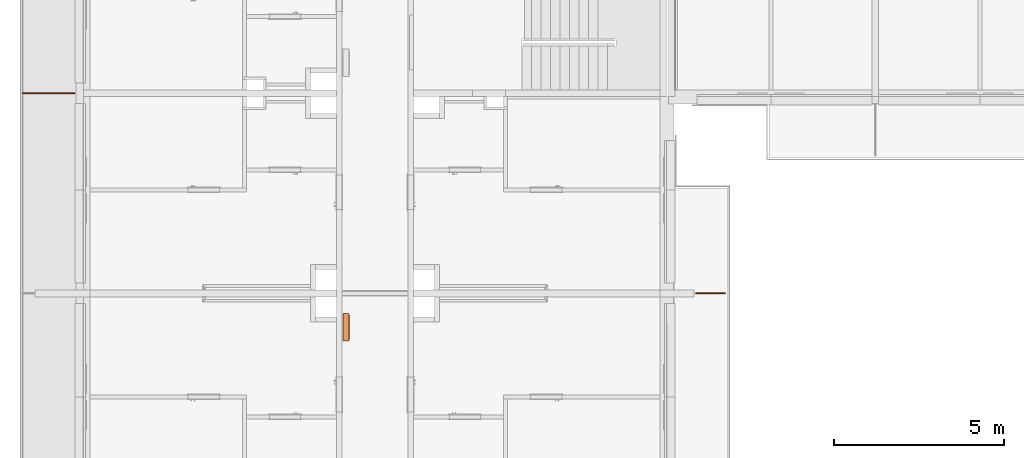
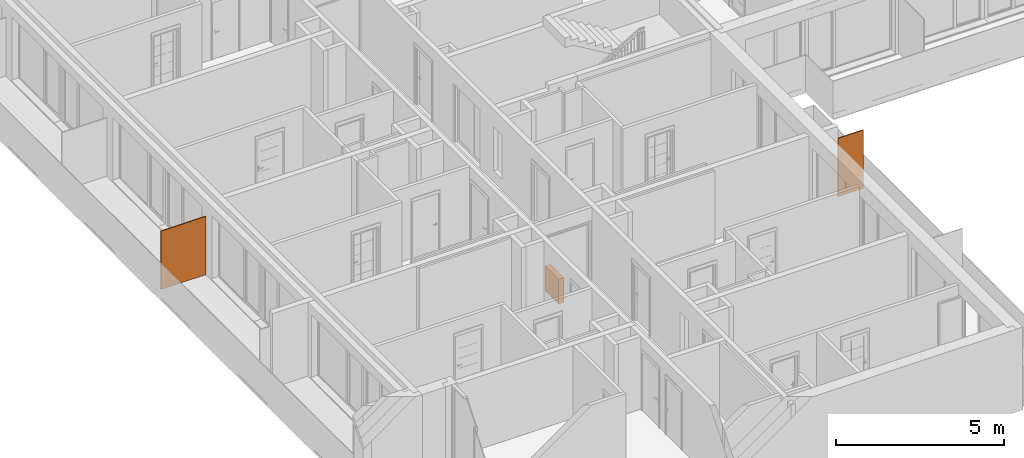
# One storey, part 12 of 66: 3 proxies.
"""IFC2X3 building model written with IfcOpenShell, lengths in millimetres."""

import ifcopenshell
import ifcopenshell.guid

model = None  # the IFC model being written
_history = None  # IfcOwnerHistory: only IFC2X3 demands one
_inside = {}  # id of a spatial element -> (the spatial element, [elements in it])
_under = {}  # id of a project, library or spatial element -> (it, [spatial elements below it])
_declared = {}  # id of a project -> (the project, [libraries it declares])
_typed = {}  # id of a type object -> (the type object, [elements of that type])
_made_of = {}  # id of a material, layer set ... -> (it, [elements and type objects made of it])


def new_model(schema):
    """Start an empty IFC model of exactly this schema.

    Asked for "IFC4X3", IfcOpenShell would pick the latest addendum, in which some entities
    have other attributes; the version numbers below select the first issue.
    IFC2X3 requires an IfcOwnerHistory on every rooted entity: one is made here for all.
    """
    global model, _history
    if schema == "IFC4X3":
        model = ifcopenshell.file(schema_version=(4, 3, 0, 0))
    else:
        model = ifcopenshell.file(schema=schema)
    _inside.clear()
    _under.clear()
    _declared.clear()
    _typed.clear()
    _made_of.clear()
    _history = None
    if model.schema == "IFC2X3":
        org = make("IfcOrganization", Name="unknown")
        user = make(
            "IfcPersonAndOrganization",
            ThePerson=make("IfcPerson", FamilyName="unknown"),
            TheOrganization=org,
        )
        app = make(
            "IfcApplication",
            ApplicationDeveloper=org,
            Version="unknown",
            ApplicationFullName="unknown",
            ApplicationIdentifier="unknown",
        )
        _history = make(
            "IfcOwnerHistory",
            OwningUser=user,
            OwningApplication=app,
            ChangeAction="ADDED",
            CreationDate=0,
        )
    return model


def make(cls, **values):
    """One entity of the class cls with the attributes given. An attribute that is None is left unset."""
    return model.create_entity(
        cls, **{name: value for name, value in values.items() if value is not None}
    )


def entity(cls, *values):
    """Any entity or typed value of the class cls, its attributes in the order of the schema. None: left unset."""
    e = model.create_entity(cls)
    for i, value in enumerate(values):
        if value is not None:
            e[i] = value
    return e


def rooted(cls, **values):
    """An entity with a GlobalId (a new one), such as an element, a storey or a relation."""
    return make(cls, GlobalId=ifcopenshell.guid.new(), OwnerHistory=_history, **values)


def si_unit(unit_type, name, prefix=None):
    """IfcSIUnit, for example si_unit("LENGTHUNIT", "METRE", prefix="MILLI")."""
    return make("IfcSIUnit", UnitType=unit_type, Prefix=prefix, Name=name)


def converted_unit(unit_type, name, factor, base, dimensions=None, offset=None):
    """IfcConversionBasedUnit, such as the inch: factor (a typed value) times the base unit."""
    return make(
        "IfcConversionBasedUnit"
        if offset is None
        else "IfcConversionBasedUnitWithOffset",
        ConversionOffset=offset,
        Dimensions=None
        if dimensions is None
        else entity("IfcDimensionalExponents", *dimensions),
        UnitType=unit_type,
        Name=name,
        ConversionFactor=make(
            "IfcMeasureWithUnit", ValueComponent=factor, UnitComponent=base
        ),
    )


def derived_unit(unit_type, elements):
    """IfcDerivedUnit: a product of units, each with its exponent."""
    return make(
        "IfcDerivedUnit",
        Elements=[
            make("IfcDerivedUnitElement", Unit=unit, Exponent=power)
            for unit, power in elements
        ],
        UnitType=unit_type,
    )


def money_unit(currency):
    """IfcMonetaryUnit."""
    return make("IfcMonetaryUnit", Currency=currency)


def assignment(units):
    """IfcUnitAssignment: the units of a project."""
    return None if units is None else make("IfcUnitAssignment", Units=units)


def point(xyz):
    """IfcCartesianPoint."""
    return None if xyz is None else make("IfcCartesianPoint", Coordinates=xyz)


def direction(xyz):
    """IfcDirection."""
    return None if xyz is None else make("IfcDirection", DirectionRatios=xyz)


def frame(location, z_axis=None, x_axis=None):
    """IfcAxis2Placement3D, a coordinate frame: its origin and axes. An axis left out is left unset."""
    return make(
        "IfcAxis2Placement3D",
        Location=point(location),
        Axis=direction(z_axis),
        RefDirection=direction(x_axis),
    )


def origin_with_axes():
    """The frame at (0, 0, 0) with the z axis (0, 0, 1) and the x axis (1, 0, 0) written out."""
    return frame((0.0, 0.0, 0.0), z_axis=(0.0, 0.0, 1.0), x_axis=(1.0, 0.0, 0.0))


def place(relative_to, where):
    """IfcLocalPlacement: puts the frame where relative to a parent placement (None: the world)."""
    return make(
        "IfcLocalPlacement", PlacementRelTo=relative_to, RelativePlacement=where
    )


def context(
    kind, dimensions, precision=None, world=None, true_north=None, identifier=None
):
    """IfcGeometricRepresentationContext, for example the 3D "Model" context."""
    return make(
        "IfcGeometricRepresentationContext",
        ContextIdentifier=identifier,
        ContextType=kind,
        CoordinateSpaceDimension=dimensions,
        Precision=precision,
        WorldCoordinateSystem=world,
        TrueNorth=true_north,
    )


def subcontext(parent, identifier, kind, view, scale=None):
    """IfcGeometricRepresentationSubContext, for example "Body" below "Model"."""
    return make(
        "IfcGeometricRepresentationSubContext",
        ContextIdentifier=identifier,
        ContextType=kind,
        ParentContext=parent,
        TargetScale=scale,
        TargetView=view,
    )


def project(units=None, contexts=None):
    """IfcProject with its units and contexts."""
    return rooted(
        "IfcProject",
        Name="project",
        RepresentationContexts=contexts,
        UnitsInContext=assignment(units),
    )


def spatial(cls, under=None, at=None, **own):
    """A site, building, storey or space (cls), placed at a placement, below another one or the project."""
    s = rooted(cls, ObjectPlacement=at, **own)
    if under is not None:
        _under.setdefault(under.id(), (under, []))[1].append(s)
    return s


def polyline(points):
    """IfcPolyline through the points."""
    return make("IfcPolyline", Points=[point(p) for p in points])


def outline(outer, holes=None, kind="AREA"):
    """IfcArbitraryClosedProfileDef: a profile drawn as a closed curve; with holes, ...WithVoids."""
    if holes is None:
        return make("IfcArbitraryClosedProfileDef", ProfileType=kind, OuterCurve=outer)
    return make(
        "IfcArbitraryProfileDefWithVoids",
        ProfileType=kind,
        OuterCurve=outer,
        InnerCurves=holes,
    )


def extrude(swept, where, along, depth):
    """IfcExtrudedAreaSolid: the profile swept, set in the frame where, extruded along a direction by depth."""
    return make(
        "IfcExtrudedAreaSolid",
        SweptArea=swept,
        Position=where,
        ExtrudedDirection=direction(along),
        Depth=depth,
    )


def faces_of(points, faces, orient=None, outer=None):
    """IfcFace entities. A face is a list of loops; a loop is a list of indices into points, from 0.

    orient and outer hold one flag for each loop. By default every Orientation is true, the
    first loop of a face is its IfcFaceOuterBound and the others are IfcFaceBound.
    """
    made = []
    for i, loops in enumerate(faces):
        bounds = []
        for j, loop in enumerate(loops):
            is_outer = j == 0 if outer is None else outer[i][j]
            bounds.append(
                make(
                    "IfcFaceOuterBound" if is_outer else "IfcFaceBound",
                    Bound=make("IfcPolyLoop", Polygon=[points[k] for k in loop]),
                    Orientation=True if orient is None else orient[i][j],
                )
            )
        made.append(make("IfcFace", Bounds=bounds))
    return made


def faceted_brep(points, faces, orient=None, outer=None, voids=None):
    """IfcFacetedBrep: a solid bounded by flat faces; with voids (closed shells), ...WithVoids."""
    shared = [point(p) for p in points]
    hull = make("IfcClosedShell", CfsFaces=faces_of(shared, faces, orient, outer))
    if voids is None:
        return make("IfcFacetedBrep", Outer=hull)
    return make(
        "IfcFacetedBrepWithVoids",
        Outer=hull,
        Voids=[
            make(cls, CfsFaces=faces_of(shared, fs, o, b)) for cls, fs, o, b in voids
        ],
    )


def shape(context_of_items, identifier, shape_type, items):
    """IfcShapeRepresentation: the items that make up one representation, for example the "Body"."""
    return make(
        "IfcShapeRepresentation",
        ContextOfItems=context_of_items,
        RepresentationIdentifier=identifier,
        RepresentationType=shape_type,
        Items=items,
    )


def source(mapping_origin, context_of_items, identifier, shape_type, items):
    """IfcRepresentationMap: a shape defined once, which mapped items show again and again."""
    return make(
        "IfcRepresentationMap",
        MappingOrigin=mapping_origin,
        MappedRepresentation=shape(context_of_items, identifier, shape_type, items),
    )


def transform(
    local_origin,
    x_axis=None,
    y_axis=None,
    z_axis=None,
    scale=None,
    scale2=None,
    scale3=None,
    uniform=True,
):
    """IfcCartesianTransformationOperator3D, or its non-uniform kind. x_axis, y_axis, z_axis: its Axis1, 2, 3."""
    if uniform:
        return make(
            "IfcCartesianTransformationOperator3D",
            Axis1=direction(x_axis),
            Axis2=direction(y_axis),
            LocalOrigin=point(local_origin),
            Scale=scale,
            Axis3=direction(z_axis),
        )
    return make(
        "IfcCartesianTransformationOperator3DnonUniform",
        Axis1=direction(x_axis),
        Axis2=direction(y_axis),
        LocalOrigin=point(local_origin),
        Scale=scale,
        Axis3=direction(z_axis),
        Scale2=scale2,
        Scale3=scale3,
    )


def mapped(mapping_source, mapping_target):
    """IfcMappedItem: shows the shape of a source again, moved by a transform."""
    return make(
        "IfcMappedItem", MappingSource=mapping_source, MappingTarget=mapping_target
    )


def material(Name=None, Category=None):
    """IfcMaterial."""
    return make("IfcMaterial", Name=Name, Category=Category)


def made_of(thing, what):
    """Note that an element or type object is made of a material, layer set ...; save() writes the relation."""
    if what is not None:
        _made_of.setdefault(what.id(), (what, []))[1].append(thing)
    return thing


def type_object(cls, material=None, **own):
    """A type object (cls), such as IfcWallType, which elements share."""
    return made_of(rooted(cls, **own), material)


def element(
    cls,
    number,
    at=None,
    inside=None,
    cuts=None,
    type_object=None,
    material=None,
    context=None,
    identifier="Body",
    shape_type=None,
    held_by="IfcProductDefinitionShape",
    body=None,
    shapes=None,
    **own,
):
    """One element of the class cls, such as IfcWall. Its Tag is "e" and its number.

    at: its placement. inside: the storey or other place that contains it. cuts: it is an
    opening in that element (IfcRelVoidsElement). A single representation is given by context,
    identifier, shape_type and body (its items); several are given by shapes. held_by: the class
    of the entity that holds the representations. save() writes the other relations.
    """
    e = rooted(cls, Tag="e%d" % number, ObjectPlacement=at, **own)
    if body is not None:
        shapes = [shape(context, identifier, shape_type, body)]
    if shapes is not None:
        e.Representation = make(held_by, Representations=shapes)
    if inside is not None:
        _inside.setdefault(inside.id(), (inside, []))[1].append(e)
    if cuts is not None:
        rooted(
            "IfcRelVoidsElement", RelatingBuildingElement=cuts, RelatedOpeningElement=e
        )
    if type_object is not None:
        _typed.setdefault(type_object.id(), (type_object, []))[1].append(e)
    return made_of(e, material)


def aggregate(whole, parts):
    """IfcRelAggregates: a whole, such as a stair, and the parts it consists of."""
    return rooted("IfcRelAggregates", RelatingObject=whole, RelatedObjects=parts)


def save(model, path):
    """Write the relations noted so far, then the file.

    IfcRelAggregates (storeys below a building ...), IfcRelContainedInSpatialStructure (elements
    in a storey), IfcRelDefinesByType, IfcRelAssociatesMaterial and IfcRelDeclares: one each for
    every whole, place, type object, material and project.
    """
    for whole, parts in _under.values():
        aggregate(whole, parts)
    for where, things in _inside.values():
        rooted(
            "IfcRelContainedInSpatialStructure",
            RelatedElements=things,
            RelatingStructure=where,
        )
    for kind, things in _typed.values():
        rooted("IfcRelDefinesByType", RelatedObjects=things, RelatingType=kind)
    for what, things in _made_of.values():
        rooted("IfcRelAssociatesMaterial", RelatedObjects=things, RelatingMaterial=what)
    for by, libraries in _declared.values():
        rooted("IfcRelDeclares", RelatingContext=by, RelatedDefinitions=libraries)
    model.write(path)


model = new_model("IFC2X3")

# Units and contexts
model_context = context("Model", 3, precision=0.01, world=origin_with_axes(), true_north=direction((0.34421633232, 0.938890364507)))
body_context = subcontext(model_context, "Body", "Model", "MODEL_VIEW")
ifc_project = project(units=[si_unit("LENGTHUNIT", "METRE", prefix="MILLI"), si_unit("AREAUNIT", "SQUARE_METRE"), si_unit("VOLUMEUNIT", "CUBIC_METRE"), converted_unit("PLANEANGLEUNIT", "DEGREE", entity("IfcPlaneAngleMeasure", 0.0174532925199), si_unit("PLANEANGLEUNIT", "RADIAN"), dimensions=[0, 0, 0, 0, 0, 0, 0]), si_unit("SOLIDANGLEUNIT", "STERADIAN"), money_unit("USD"), converted_unit("TIMEUNIT", "Year", entity("IfcTimeMeasure", 31556926.0), si_unit("TIMEUNIT", "SECOND"), dimensions=[0, 0, 1, 0, 0, 0, 0]), si_unit("MASSUNIT", "GRAM", prefix="KILO"), si_unit("THERMODYNAMICTEMPERATUREUNIT", "DEGREE_CELSIUS"), si_unit("LUMINOUSINTENSITYUNIT", "LUMEN"), si_unit("ENERGYUNIT", "JOULE", prefix="MEGA"), derived_unit("THERMALCONDUCTANCEUNIT", [(si_unit("POWERUNIT", "WATT"), 1), (si_unit("LENGTHUNIT", "METRE"), -1), (si_unit("THERMODYNAMICTEMPERATUREUNIT", "KELVIN"), -1)]), derived_unit("SPECIFICHEATCAPACITYUNIT", [(si_unit("ENERGYUNIT", "JOULE"), 1), (si_unit("MASSUNIT", "GRAM", prefix="KILO"), -1), (si_unit("THERMODYNAMICTEMPERATUREUNIT", "KELVIN"), -1)]), derived_unit("MASSDENSITYUNIT", [(si_unit("MASSUNIT", "GRAM", prefix="KILO"), 1), (si_unit("VOLUMEUNIT", "CUBIC_METRE"), -1)])], contexts=[model_context])

# Site, building, storey
site_placement = place(None, origin_with_axes())
site = spatial("IfcSite", under=ifc_project, at=site_placement, Name="USTRONIE MORSKIE", CompositionType="ELEMENT")
building_placement = place(site_placement, origin_with_axes())
building = spatial("IfcBuilding", under=site, at=building_placement, Name="Budynek", CompositionType="ELEMENT")
storey_placement = place(building_placement, frame((0.0, 0.0, 10000.0), z_axis=(0.0, 0.0, 1.0), x_axis=(1.0, 0.0, 0.0)))
storey = spatial("IfcBuildingStorey", under=building, at=storey_placement, Name="PIĘTRO 3", CompositionType="ELEMENT", Elevation=10000.0)

# Proxies
ifc_material = material(Name="Woda")
building_element_proxy_type_1 = type_object("IfcBuildingElementProxyType", Name="Woda 30", PredefinedType="NOTDEFINED")
proxy_1_placement = place(storey_placement, frame((368017.957311, 721001.199036, 20.0), z_axis=(0.0, 0.0, 1.0), x_axis=(0.99999999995, -1.0002154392e-05, 0.0)))
element("IfcBuildingElementProxy", 1, at=proxy_1_placement, inside=storey, type_object=building_element_proxy_type_1, material=ifc_material, Name="Œciana-007", context=body_context, shape_type="SweptSolid", body=[
    extrude(outline(polyline([(0.0, -15.0000000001), (870.000000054, -15.0000000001), (870.000000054, 14.9999999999), (0.0, 14.9999999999), (0.0, -15.0000000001)])), origin_with_axes(), (0.0, 0.0, 1.0), 2120.0),
])
proxy_2_placement = place(storey_placement, frame((349717.920919, 726901.199036, 20.0), z_axis=(0.0, 0.0, 1.0), x_axis=(-0.999999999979, -6.4085659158e-06, 0.0)))
element("IfcBuildingElementProxy", 2, at=proxy_2_placement, inside=storey, type_object=building_element_proxy_type_1, material=ifc_material, Name="Œciana-007", context=body_context, shape_type="SweptSolid", body=[
    extrude(outline(polyline([(0.0, -15.0), (1550.00000003, -15.0), (1550.00000003, 15.0), (0.0, 15.0), (0.0, -15.0)])), origin_with_axes(), (0.0, 0.0, 1.0), 2120.0),
])
building_element_proxy_type_2 = type_object("IfcBuildingElementProxyType", Name="Skrzynka P-Poż 23", PredefinedType="NOTDEFINED")
shared_shape = source(origin_with_axes(), body_context, "Body", "Brep", [
    faceted_brep([(0.0, 40.0, 0.0), (0.0, 20.0, 0.0), (-800.0, 20.0, 0.0), (-800.0, 40.0, 0.0), (0.0, 40.0, 900.0), (0.0, 20.0, 900.0), (-800.0, 20.0, 900.0), (-60.0, 20.0, 60.0), (-740.0, 20.0, 60.0), (-740.0, 20.0, 840.0), (-60.0, 20.0, 840.0), (-800.0, 40.0, 900.0), (-60.0, 40.0, 60.0), (-60.0, 40.0, 840.0), (-740.0, 40.0, 840.0), (-740.0, 40.0, 60.0)], [[[0, 1, 2, 3]], [[4, 5, 1, 0]], [[1, 5, 6, 2], [7, 8, 9, 10]], [[3, 2, 6, 11]], [[0, 3, 11, 4], [12, 13, 14, 15]], [[11, 6, 5, 4]], [[15, 8, 7, 12]], [[14, 9, 8, 15]], [[13, 10, 9, 14]], [[12, 7, 10, 13]]]),
    faceted_brep([(-40.0, 20.0, 40.0), (-40.0, 0.0, 40.0), (-760.0, 0.0, 40.0), (-760.0, 20.0, 40.0), (-40.0, 20.0, 860.0), (-40.0, 0.0, 860.0), (-760.0, 0.0, 860.0), (-80.0, 0.0, 80.0), (-720.0, 0.0, 80.0), (-720.0, 0.0, 820.0), (-80.0, 0.0, 820.0), (-760.0, 20.0, 860.0), (-80.0, 20.0, 80.0), (-80.0, 20.0, 820.0), (-720.0, 20.0, 820.0), (-720.0, 20.0, 80.0)], [[[0, 1, 2, 3]], [[4, 5, 1, 0]], [[1, 5, 6, 2], [7, 8, 9, 10]], [[3, 2, 6, 11]], [[0, 3, 11, 4], [12, 13, 14, 15]], [[11, 6, 5, 4]], [[15, 8, 7, 12]], [[14, 9, 8, 15]], [[13, 10, 9, 14]], [[12, 7, 10, 13]]]),
    faceted_brep([(0.0, 180.0, 0.0), (0.0, 40.0, 0.0), (-800.0, 40.0, 0.0), (-800.0, 180.0, 0.0), (0.0, 180.0, 900.0), (0.0, 40.0, 900.0), (-800.0, 40.0, 900.0), (-20.0, 40.0, 20.0), (-780.0, 40.0, 20.0), (-780.0, 40.0, 880.0), (-20.0, 40.0, 880.0), (-800.0, 180.0, 900.0), (-20.0, 180.0, 20.0), (-20.0, 180.0, 880.0), (-780.0, 180.0, 880.0), (-780.0, 180.0, 20.0)], [[[0, 1, 2, 3]], [[4, 5, 1, 0]], [[1, 5, 6, 2], [7, 8, 9, 10]], [[3, 2, 6, 11]], [[0, 3, 11, 4], [12, 13, 14, 15]], [[11, 6, 5, 4]], [[15, 8, 7, 12]], [[14, 9, 8, 15]], [[13, 10, 9, 14]], [[12, 7, 10, 13]]]),
    faceted_brep([(0.0, 200.0, 0.0), (0.0, 180.0, 0.0), (-800.0, 180.0, 0.0), (-800.0, 200.0, 0.0), (0.0, 200.0, 900.0), (0.0, 180.0, 900.0), (-800.0, 180.0, 900.0), (-800.0, 200.0, 900.0)], [[[0, 1, 2, 3]], [[4, 5, 1, 0]], [[1, 5, 6, 2]], [[3, 2, 6, 7]], [[0, 3, 7, 4]], [[7, 6, 5, 4]]]),
    faceted_brep([(-80.0, 15.0, 80.0), (-80.0, 5.0, 80.0), (-720.0, 5.0, 80.0), (-720.0, 15.0, 80.0), (-80.0, 15.0, 820.0), (-80.0, 5.0, 820.0), (-720.0, 5.0, 820.0), (-720.0, 15.0, 820.0)], [[[0, 1, 2, 3]], [[4, 5, 1, 0]], [[1, 5, 6, 2]], [[3, 2, 6, 7]], [[0, 3, 7, 4]], [[7, 6, 5, 4]]]),
    faceted_brep([(-749.659258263, 0.0, 447.411809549), (-750.0, 0.0, 450.0), (-749.659258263, 0.0, 452.588190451), (-748.660254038, 0.0, 455.0), (-747.071067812, 0.0, 457.071067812), (-745.0, 0.0, 458.660254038), (-742.588190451, 0.0, 459.659258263), (-740.0, 0.0, 460.0), (-737.411809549, 0.0, 459.659258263), (-735.0, 0.0, 458.660254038), (-732.928932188, 0.0, 457.071067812), (-731.339745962, 0.0, 455.0), (-730.340741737, 0.0, 452.588190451), (-730.0, 0.0, 450.0), (-730.340741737, 0.0, 447.411809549), (-731.339745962, 0.0, 445.0), (-732.928932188, 0.0, 442.928932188), (-735.0, 0.0, 441.339745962), (-737.411809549, 0.0, 440.340741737), (-740.0, 0.0, 440.0), (-742.588190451, 0.0, 440.340741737), (-745.0, 0.0, 441.339745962), (-747.071067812, 0.0, 442.928932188), (-748.660254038, 0.0, 445.0), (-749.659258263, -2.0, 447.411809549), (-750.0, -2.0, 450.0), (-749.659258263, -2.0, 452.588190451), (-748.660254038, -2.0, 455.0), (-747.071067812, -2.0, 457.071067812), (-745.0, -2.0, 458.660254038), (-742.588190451, -2.0, 459.659258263), (-740.0, -2.0, 460.0), (-737.411809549, -2.0, 459.659258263), (-735.0, -2.0, 458.660254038), (-732.928932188, -2.0, 457.071067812), (-731.339745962, -2.0, 455.0), (-730.340741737, -2.0, 452.588190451), (-730.0, -2.0, 450.0), (-730.340741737, -2.0, 447.411809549), (-731.339745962, -2.0, 445.0), (-732.928932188, -2.0, 442.928932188), (-735.0, -2.0, 441.339745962), (-737.411809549, -2.0, 440.340741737), (-740.0, -2.0, 440.0), (-742.588190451, -2.0, 440.340741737), (-745.0, -2.0, 441.339745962), (-747.071067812, -2.0, 442.928932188), (-748.660254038, -2.0, 445.0)], [[[0, 1, 2, 3, 4, 5, 6, 7, 8, 9, 10, 11, 12, 13, 14, 15, 16, 17, 18, 19, 20, 21, 22, 23]], [[0, 24, 25, 1]], [[1, 25, 26, 2]], [[2, 26, 27, 3]], [[3, 27, 28, 4]], [[4, 28, 29, 5]], [[5, 29, 30, 6]], [[6, 30, 31, 7]], [[7, 31, 32, 8]], [[8, 32, 33, 9]], [[9, 33, 34, 10]], [[10, 34, 35, 11]], [[11, 35, 36, 12]], [[12, 36, 37, 13]], [[13, 37, 38, 14]], [[14, 38, 39, 15]], [[15, 39, 40, 16]], [[16, 40, 41, 17]], [[17, 41, 42, 18]], [[18, 42, 43, 19]], [[19, 43, 44, 20]], [[20, 44, 45, 21]], [[21, 45, 46, 22]], [[22, 46, 47, 23]], [[23, 47, 24, 0]], [[24, 47, 46, 45, 44, 43, 42, 41, 40, 39, 38, 37, 36, 35, 34, 33, 32, 31, 30, 29, 28, 27, 26, 25]]]),
    faceted_brep([(-39.8977774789, 16.2235428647, 80.0), (-40.0, 17.0, 80.0), (-39.8977774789, 17.7764571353, 80.0), (-39.5980762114, 18.5, 80.0), (-39.1213203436, 19.1213203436, 80.0), (-38.5, 19.5980762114, 80.0), (-37.7764571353, 19.8977774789, 80.0), (-37.0, 20.0, 80.0), (-36.2235428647, 19.8977774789, 80.0), (-35.5, 19.5980762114, 80.0), (-34.8786796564, 19.1213203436, 80.0), (-34.4019237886, 18.5, 80.0), (-34.1022225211, 17.7764571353, 80.0), (-34.0, 17.0, 80.0), (-34.1022225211, 16.2235428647, 80.0), (-34.4019237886, 15.5, 80.0), (-34.8786796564, 14.8786796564, 80.0), (-35.5, 14.4019237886, 80.0), (-36.2235428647, 14.1022225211, 80.0), (-37.0, 14.0, 80.0), (-37.7764571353, 14.1022225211, 80.0), (-38.5, 14.4019237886, 80.0), (-39.1213203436, 14.8786796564, 80.0), (-39.5980762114, 15.5, 80.0), (-39.8977774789, 16.2235428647, 120.0), (-40.0, 17.0, 120.0), (-39.8977774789, 17.7764571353, 120.0), (-39.5980762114, 18.5, 120.0), (-39.1213203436, 19.1213203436, 120.0), (-38.5, 19.5980762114, 120.0), (-37.7764571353, 19.8977774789, 120.0), (-37.0, 20.0, 120.0), (-36.2235428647, 19.8977774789, 120.0), (-35.5, 19.5980762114, 120.0), (-34.8786796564, 19.1213203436, 120.0), (-34.4019237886, 18.5, 120.0), (-34.1022225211, 17.7764571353, 120.0), (-34.0, 17.0, 120.0), (-34.1022225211, 16.2235428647, 120.0), (-34.4019237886, 15.5, 120.0), (-34.8786796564, 14.8786796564, 120.0), (-35.5, 14.4019237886, 120.0), (-36.2235428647, 14.1022225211, 120.0), (-37.0, 14.0, 120.0), (-37.7764571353, 14.1022225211, 120.0), (-38.5, 14.4019237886, 120.0), (-39.1213203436, 14.8786796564, 120.0), (-39.5980762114, 15.5, 120.0)], [[[0, 1, 2, 3, 4, 5, 6, 7, 8, 9, 10, 11, 12, 13, 14, 15, 16, 17, 18, 19, 20, 21, 22, 23]], [[0, 24, 25, 1]], [[1, 25, 26, 2]], [[2, 26, 27, 3]], [[3, 27, 28, 4]], [[4, 28, 29, 5]], [[5, 29, 30, 6]], [[6, 30, 31, 7]], [[7, 31, 32, 8]], [[8, 32, 33, 9]], [[9, 33, 34, 10]], [[10, 34, 35, 11]], [[11, 35, 36, 12]], [[12, 36, 37, 13]], [[13, 37, 38, 14]], [[14, 38, 39, 15]], [[15, 39, 40, 16]], [[16, 40, 41, 17]], [[17, 41, 42, 18]], [[18, 42, 43, 19]], [[19, 43, 44, 20]], [[20, 44, 45, 21]], [[21, 45, 46, 22]], [[22, 46, 47, 23]], [[23, 47, 24, 0]], [[24, 47, 46, 45, 44, 43, 42, 41, 40, 39, 38, 37, 36, 35, 34, 33, 32, 31, 30, 29, 28, 27, 26, 25]]]),
    faceted_brep([(-39.8977774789, 16.2235428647, 780.0), (-40.0, 17.0, 780.0), (-39.8977774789, 17.7764571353, 780.0), (-39.5980762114, 18.5, 780.0), (-39.1213203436, 19.1213203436, 780.0), (-38.5, 19.5980762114, 780.0), (-37.7764571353, 19.8977774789, 780.0), (-37.0, 20.0, 780.0), (-36.2235428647, 19.8977774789, 780.0), (-35.5, 19.5980762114, 780.0), (-34.8786796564, 19.1213203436, 780.0), (-34.4019237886, 18.5, 780.0), (-34.1022225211, 17.7764571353, 780.0), (-34.0, 17.0, 780.0), (-34.1022225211, 16.2235428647, 780.0), (-34.4019237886, 15.5, 780.0), (-34.8786796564, 14.8786796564, 780.0), (-35.5, 14.4019237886, 780.0), (-36.2235428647, 14.1022225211, 780.0), (-37.0, 14.0, 780.0), (-37.7764571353, 14.1022225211, 780.0), (-38.5, 14.4019237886, 780.0), (-39.1213203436, 14.8786796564, 780.0), (-39.5980762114, 15.5, 780.0), (-39.8977774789, 16.2235428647, 820.0), (-40.0, 17.0, 820.0), (-39.8977774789, 17.7764571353, 820.0), (-39.5980762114, 18.5, 820.0), (-39.1213203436, 19.1213203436, 820.0), (-38.5, 19.5980762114, 820.0), (-37.7764571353, 19.8977774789, 820.0), (-37.0, 20.0, 820.0), (-36.2235428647, 19.8977774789, 820.0), (-35.5, 19.5980762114, 820.0), (-34.8786796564, 19.1213203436, 820.0), (-34.4019237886, 18.5, 820.0), (-34.1022225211, 17.7764571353, 820.0), (-34.0, 17.0, 820.0), (-34.1022225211, 16.2235428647, 820.0), (-34.4019237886, 15.5, 820.0), (-34.8786796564, 14.8786796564, 820.0), (-35.5, 14.4019237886, 820.0), (-36.2235428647, 14.1022225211, 820.0), (-37.0, 14.0, 820.0), (-37.7764571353, 14.1022225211, 820.0), (-38.5, 14.4019237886, 820.0), (-39.1213203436, 14.8786796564, 820.0), (-39.5980762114, 15.5, 820.0)], [[[0, 1, 2, 3, 4, 5, 6, 7, 8, 9, 10, 11, 12, 13, 14, 15, 16, 17, 18, 19, 20, 21, 22, 23]], [[0, 24, 25, 1]], [[1, 25, 26, 2]], [[2, 26, 27, 3]], [[3, 27, 28, 4]], [[4, 28, 29, 5]], [[5, 29, 30, 6]], [[6, 30, 31, 7]], [[7, 31, 32, 8]], [[8, 32, 33, 9]], [[9, 33, 34, 10]], [[10, 34, 35, 11]], [[11, 35, 36, 12]], [[12, 36, 37, 13]], [[13, 37, 38, 14]], [[14, 38, 39, 15]], [[15, 39, 40, 16]], [[16, 40, 41, 17]], [[17, 41, 42, 18]], [[18, 42, 43, 19]], [[19, 43, 44, 20]], [[20, 44, 45, 21]], [[21, 45, 46, 22]], [[22, 46, 47, 23]], [[23, 47, 24, 0]], [[24, 47, 46, 45, 44, 43, 42, 41, 40, 39, 38, 37, 36, 35, 34, 33, 32, 31, 30, 29, 28, 27, 26, 25]]]),
])
proxy_3_placement = place(storey_placement, frame((357817.920919, 720401.199036, 600.0), z_axis=(0.0, 0.0, 1.0), x_axis=(0.0, 1.0, 0.0)))
element("IfcBuildingElementProxy", 3, at=proxy_3_placement, inside=storey, type_object=building_element_proxy_type_2, Name="OB3", context=body_context, shape_type="MappedRepresentation", body=[
    mapped(shared_shape, transform((0.0, 0.0, 0.0))),
])

save(model, "model.ifc")
